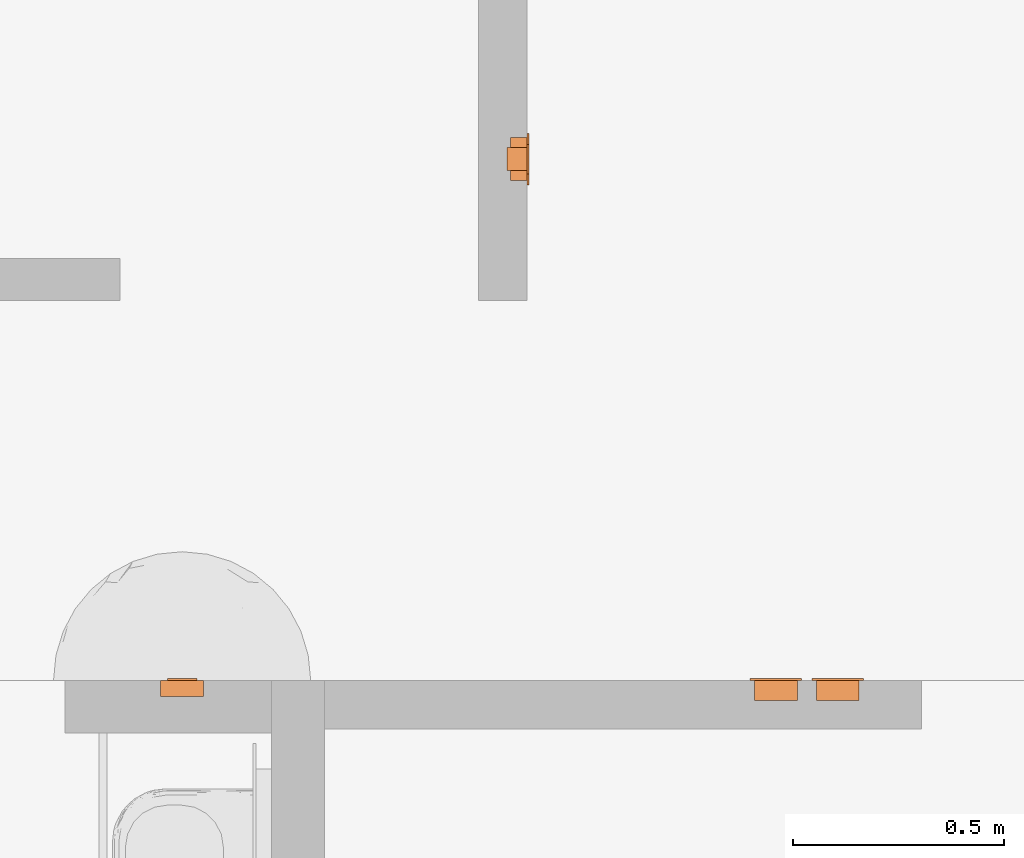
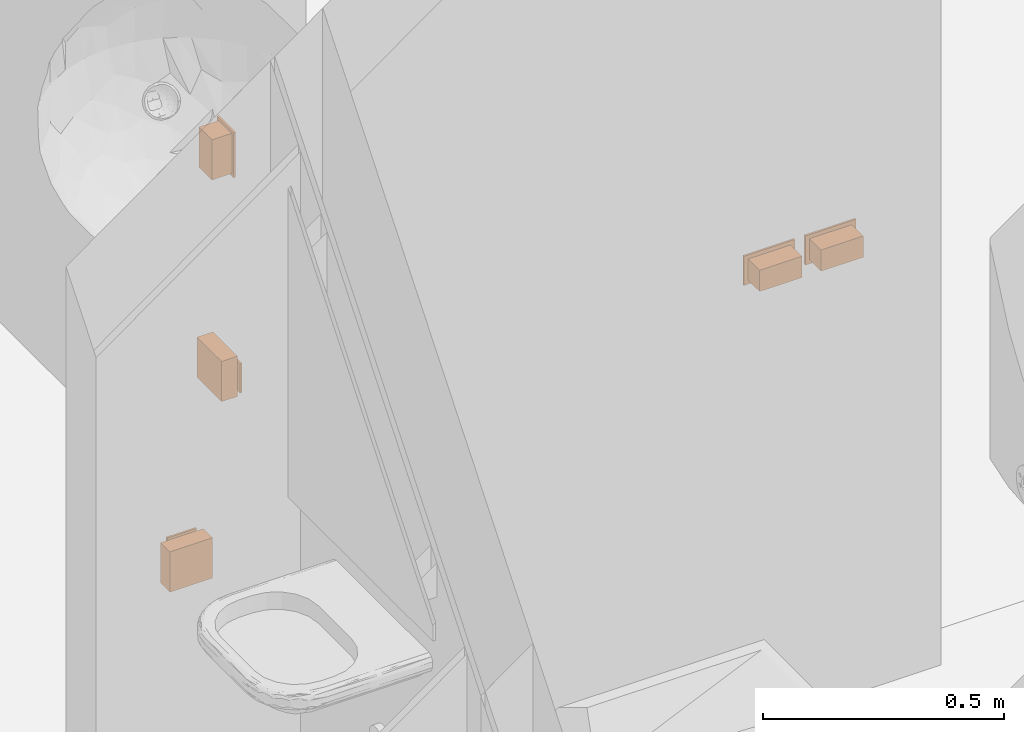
# One storey, part 51 of 51: 5 proxies.
"""IFC4 building model written with IfcOpenShell, lengths in metres."""

from ifc_helpers import new_model, entity, si_unit, converted_unit, derived_unit, direction, frame, origin, place, context, subcontext, project, spatial, indexed_curve, outline, extrude, source, transform, mapped, material, type_object, type_shapes, element, save


model = new_model("IFC4")

# Units and contexts
model_context = context("Model", 3, precision=1e-05, world=origin(), true_north=direction((6.123031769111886e-17, 1.0)))
body_context = subcontext(model_context, "Body", "Model", "MODEL_VIEW")
ifc_project = project(units=[si_unit("LENGTHUNIT", "METRE"), si_unit("AREAUNIT", "SQUARE_METRE"), si_unit("VOLUMEUNIT", "CUBIC_METRE"), converted_unit("PLANEANGLEUNIT", "DEGREE", entity("IfcRatioMeasure", 0.017453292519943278), si_unit("PLANEANGLEUNIT", "RADIAN"), dimensions=[0, 0, 0, 0, 0, 0, 0]), si_unit("MASSUNIT", "GRAM", prefix="KILO"), derived_unit("MASSDENSITYUNIT", [(si_unit("MASSUNIT", "GRAM", prefix="KILO"), 1), (si_unit("LENGTHUNIT", "METRE"), -3)]), derived_unit("IONCONCENTRATIONUNIT", [(si_unit("MASSUNIT", "GRAM", prefix="KILO"), 1), (si_unit("LENGTHUNIT", "METRE"), -3)]), derived_unit("MOMENTOFINERTIAUNIT", [(si_unit("LENGTHUNIT", "METRE"), 4)]), si_unit("TIMEUNIT", "SECOND"), si_unit("FREQUENCYUNIT", "HERTZ"), si_unit("THERMODYNAMICTEMPERATUREUNIT", "DEGREE_CELSIUS"), derived_unit("THERMALTRANSMITTANCEUNIT", [(si_unit("MASSUNIT", "GRAM", prefix="KILO"), 1), (si_unit("THERMODYNAMICTEMPERATUREUNIT", "KELVIN"), -1), (si_unit("TIMEUNIT", "SECOND"), -3)]), derived_unit("THERMALCONDUCTANCEUNIT", [(si_unit("MASSUNIT", "GRAM", prefix="KILO"), 1), (si_unit("THERMODYNAMICTEMPERATUREUNIT", "KELVIN"), -1), (si_unit("TIMEUNIT", "SECOND"), -3), (si_unit("LENGTHUNIT", "METRE"), 1)]), derived_unit("VOLUMETRICFLOWRATEUNIT", [(si_unit("LENGTHUNIT", "METRE"), 3), (si_unit("TIMEUNIT", "SECOND"), -1)]), derived_unit("MASSFLOWRATEUNIT", [(si_unit("MASSUNIT", "GRAM", prefix="KILO"), 1), (si_unit("TIMEUNIT", "SECOND"), -1)]), derived_unit("ROTATIONALFREQUENCYUNIT", [(si_unit("TIMEUNIT", "SECOND"), -1)]), si_unit("ELECTRICCURRENTUNIT", "AMPERE"), si_unit("ELECTRICVOLTAGEUNIT", "VOLT"), si_unit("POWERUNIT", "WATT"), si_unit("FORCEUNIT", "NEWTON", prefix="KILO"), si_unit("ILLUMINANCEUNIT", "LUX"), si_unit("LUMINOUSFLUXUNIT", "LUMEN"), si_unit("LUMINOUSINTENSITYUNIT", "CANDELA"), derived_unit("USERDEFINED", [(si_unit("MASSUNIT", "GRAM", prefix="KILO"), -1), (si_unit("LENGTHUNIT", "METRE"), -2), (si_unit("TIMEUNIT", "SECOND"), 3), (si_unit("LUMINOUSFLUXUNIT", "LUMEN"), 1)]), derived_unit("USERDEFINED", [(si_unit("MASSUNIT", "GRAM", prefix="KILO"), 1), (si_unit("TIMEUNIT", "SECOND"), -3), (si_unit("LENGTHUNIT", "METRE"), 3), (si_unit("ELECTRICCURRENTUNIT", "AMPERE"), -2)]), derived_unit("SOUNDPOWERUNIT", [(si_unit("MASSUNIT", "GRAM", prefix="KILO"), 1), (si_unit("TIMEUNIT", "SECOND"), -3), (si_unit("LENGTHUNIT", "METRE"), 2)]), derived_unit("SOUNDPRESSUREUNIT", [(si_unit("MASSUNIT", "GRAM", prefix="KILO"), 1), (si_unit("LENGTHUNIT", "METRE"), -1), (si_unit("TIMEUNIT", "SECOND"), -2)]), derived_unit("LINEARVELOCITYUNIT", [(si_unit("LENGTHUNIT", "METRE"), 1), (si_unit("TIMEUNIT", "SECOND"), -1)]), si_unit("PRESSUREUNIT", "PASCAL"), derived_unit("USERDEFINED", [(si_unit("MASSUNIT", "GRAM", prefix="KILO"), 1), (si_unit("LENGTHUNIT", "METRE"), -2), (si_unit("TIMEUNIT", "SECOND"), -2)]), derived_unit("LINEARFORCEUNIT", [(si_unit("MASSUNIT", "GRAM", prefix="KILO"), 1), (si_unit("TIMEUNIT", "SECOND"), -2)]), derived_unit("PLANARFORCEUNIT", [(si_unit("MASSUNIT", "GRAM", prefix="KILO"), 1), (si_unit("LENGTHUNIT", "METRE"), -1), (si_unit("TIMEUNIT", "SECOND"), -2)]), derived_unit("SPECIFICHEATCAPACITYUNIT", [(si_unit("THERMODYNAMICTEMPERATUREUNIT", "KELVIN"), -1), (si_unit("LENGTHUNIT", "METRE"), 2), (si_unit("TIMEUNIT", "SECOND"), -2)]), derived_unit("HEATINGVALUEUNIT", [(si_unit("LENGTHUNIT", "METRE"), 2), (si_unit("TIMEUNIT", "SECOND"), -2)]), derived_unit("VAPORPERMEABILITYUNIT", [(si_unit("LENGTHUNIT", "METRE"), -1), (si_unit("TIMEUNIT", "SECOND"), 1)]), derived_unit("DYNAMICVISCOSITYUNIT", [(si_unit("MASSUNIT", "GRAM", prefix="KILO"), 1), (si_unit("TIMEUNIT", "SECOND"), -1), (si_unit("LENGTHUNIT", "METRE"), -1)]), derived_unit("THERMALEXPANSIONCOEFFICIENTUNIT", [(si_unit("THERMODYNAMICTEMPERATUREUNIT", "KELVIN"), -1)]), derived_unit("MODULUSOFELASTICITYUNIT", [(si_unit("MASSUNIT", "GRAM", prefix="KILO"), 1), (si_unit("LENGTHUNIT", "METRE"), -1), (si_unit("TIMEUNIT", "SECOND"), -2)]), derived_unit("ISOTHERMALMOISTURECAPACITYUNIT", [(si_unit("LENGTHUNIT", "METRE"), 3), (si_unit("MASSUNIT", "GRAM", prefix="KILO"), -1)]), derived_unit("MOISTUREDIFFUSIVITYUNIT", [(si_unit("TIMEUNIT", "SECOND"), -1), (si_unit("LENGTHUNIT", "METRE"), 2)])], contexts=[model_context])

# Site, building, storey, space
site_placement = place(None, origin())
site = spatial("IfcSite", under=ifc_project, at=site_placement, Name="Default", CompositionType="ELEMENT")
building_placement = place(site_placement, origin())
building = spatial("IfcBuilding", under=site, at=building_placement, CompositionType="ELEMENT")
storey_placement = place(building_placement, frame((0.0, 0.0, 2.350000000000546)))
storey = spatial("IfcBuildingStorey", under=building, at=storey_placement, Name="Nivel 2", CompositionType="ELEMENT", Elevation=2.350000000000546)
space_1_placement = place(storey_placement, origin())
space_1 = spatial("IfcSpace", under=storey, at=space_1_placement, Name="408", CompositionType="ELEMENT", PredefinedType="SPACE")

# Proxies
ifc_material = material(Name="<Unnamed>")
building_element_proxy_type_1 = type_object("IfcBuildingElementProxyType", Name="Toma Doble Normal:Caja 2400", PredefinedType="NOTDEFINED", material=ifc_material)
shared_shape_1 = source(origin(), body_context, "Body", "SweptSolid", [
    extrude(outline(indexed_curve([(-0.05099999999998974, -0.051000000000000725), (0.05099999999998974, -0.051000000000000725), (0.05099999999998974, 0.051000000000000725), (-0.05099999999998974, 0.051000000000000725), (-0.05099999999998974, -0.051000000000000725)], self_intersect=False)), frame((0.0, 0.0, -0.03850000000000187), z_axis=(0.0, 0.0, 1.0), x_axis=(-1.0, 0.0, 0.0)), (0.0, 0.0, 1.0), 0.038500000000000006),
    extrude(outline(indexed_curve([(-0.06090000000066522, -0.03694999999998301), (0.06090000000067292, -0.03694999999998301), (0.06090000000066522, 0.03694999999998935), (-0.06090000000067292, 0.036949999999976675), (-0.06090000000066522, -0.03694999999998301)], self_intersect=False)), frame((0.0, 0.0, 0.0), z_axis=(0.0, 0.0, 1.0), x_axis=(-1.0, 0.0, 0.0)), (0.0, 0.0, 1.0), 0.004762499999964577),
])
type_shapes(building_element_proxy_type_1, [shared_shape_1])
proxy_1_placement = place(space_1_placement, frame((4.567499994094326, -2.4743878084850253, 0.3000000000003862), z_axis=(1.0, 0.0, 0.0), x_axis=(0.0, -1.0, 0.0)))
element("IfcBuildingElementProxy", 1, at=proxy_1_placement, inside=space_1, type_object=building_element_proxy_type_1, material=ifc_material, Name="Toma Doble Normal:Caja 2400", ObjectType="Toma Doble Normal:Caja 2400", PredefinedType="NOTDEFINED", context=body_context, shape_type="MappedRepresentation", body=[
    mapped(shared_shape_1, transform((0.0, 0.0, 0.0), scale=1.0)),
])
building_element_proxy_type_2 = type_object("IfcBuildingElementProxyType", Name="Toma Doble Normal (Esclava):Caja 5800", PredefinedType="NOTDEFINED", material=ifc_material)
shared_shape_2 = source(origin(), body_context, "Body", "SweptSolid", [
    extrude(outline(indexed_curve([(-0.05089999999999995, -0.026950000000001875), (0.05089999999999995, -0.026950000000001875), (0.05089999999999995, 0.026950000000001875), (-0.05089999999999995, 0.026950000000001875), (-0.05089999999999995, -0.026950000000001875)], self_intersect=False)), frame((0.0, 0.0, -0.04760000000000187), z_axis=(0.0, 0.0, 1.0), x_axis=(-1.0, 0.0, 0.0)), (0.0, 0.0, 1.0), 0.047599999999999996),
    extrude(outline(indexed_curve([(-0.06090000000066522, -0.03694999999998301), (0.06090000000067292, -0.03694999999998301), (0.06090000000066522, 0.03694999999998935), (-0.06090000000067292, 0.036949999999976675), (-0.06090000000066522, -0.03694999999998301)], self_intersect=False)), frame((0.0, 0.0, 0.0), z_axis=(0.0, 0.0, 1.0), x_axis=(-1.0, 0.0, 0.0)), (0.0, 0.0, 1.0), 0.004762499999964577),
])
type_shapes(building_element_proxy_type_2, [shared_shape_2])
proxy_2_placement = place(space_1_placement, frame((5.304326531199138, -3.709999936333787, 1.1000000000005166), z_axis=(0.0, 1.0, 0.0), x_axis=(-1.0, 0.0, 0.0)))
element("IfcBuildingElementProxy", 2, at=proxy_2_placement, inside=space_1, type_object=building_element_proxy_type_2, material=ifc_material, Name="Toma Doble Normal (Esclava):Caja 5800", ObjectType="Toma Doble Normal (Esclava):Caja 5800", PredefinedType="NOTDEFINED", context=body_context, shape_type="MappedRepresentation", body=[
    mapped(shared_shape_2, transform((0.0, 0.0, 0.0), scale=1.0)),
])
building_element_proxy_type_3 = type_object("IfcBuildingElementProxyType", Name="Toma Citófono:Caja 5800", PredefinedType="NOTDEFINED", material=ifc_material)
shared_shape_3 = source(origin(), body_context, "Body", "SweptSolid", [
    extrude(outline(indexed_curve([(-0.026949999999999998, -0.0509), (0.02695, -0.050899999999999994), (0.026949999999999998, 0.050899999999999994), (-0.026949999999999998, 0.0509), (-0.026949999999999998, -0.0509)], self_intersect=False)), frame((0.0, 0.0, -0.04760000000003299), z_axis=(0.0, 0.0, 1.0), x_axis=(0.0, 1.0, 0.0)), (0.0, 0.0, 1.0), 0.047600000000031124),
    extrude(outline(indexed_curve([(-0.03694999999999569, -0.06089999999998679), (0.036949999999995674, -0.06089999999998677), (0.03694999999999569, 0.060899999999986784), (-0.03694999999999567, 0.060899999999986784), (-0.03694999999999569, -0.06089999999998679)], self_intersect=False)), frame((0.0, 0.0, 0.0), z_axis=(0.0, 0.0, 1.0), x_axis=(0.0, 1.0, 0.0)), (0.0, 0.0, 1.0), 0.004762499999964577),
])
type_shapes(building_element_proxy_type_3, [shared_shape_3])
proxy_3_placement = place(space_1_placement, frame((5.157476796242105, -3.7099999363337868, 1.1000000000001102), z_axis=(0.0, 1.0, 0.0), x_axis=(-1.0, 0.0, 0.0)))
element("IfcBuildingElementProxy", 3, at=proxy_3_placement, inside=space_1, type_object=building_element_proxy_type_3, material=ifc_material, Name="Toma Citófono:Caja 5800", ObjectType="Toma Citófono:Caja 5800", PredefinedType="NOTDEFINED", context=body_context, shape_type="MappedRepresentation", body=[
    mapped(shared_shape_3, transform((0.0, 0.0, 0.0), scale=1.0)),
])

# Space
space_2_placement = place(storey_placement, origin())
space_2 = spatial("IfcSpace", under=storey, at=space_2_placement, Name="409", CompositionType="ELEMENT", PredefinedType="SPACE")

# Proxies
building_element_proxy_type_4 = type_object("IfcBuildingElementProxyType", Name="Interruptor Sencillo:Caja 2400", PredefinedType="NOTDEFINED", material=ifc_material)
shared_shape_4 = source(origin(), body_context, "Body", "SweptSolid", [
    extrude(outline(indexed_curve([(-0.051000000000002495, -0.05100000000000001), (0.051000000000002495, -0.05100000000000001), (0.051000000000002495, 0.05100000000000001), (-0.051000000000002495, 0.05100000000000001), (-0.051000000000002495, -0.05100000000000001)], self_intersect=False)), frame((0.0, 0.0, -0.03850000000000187), z_axis=(0.0, 0.0, 1.0), x_axis=(0.0, 1.0, 0.0)), (0.0, 0.0, 1.0), 0.038500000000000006),
    extrude(outline(indexed_curve([(-0.05715000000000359, -0.03492499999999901), (0.057150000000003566, -0.03492499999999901), (0.05715000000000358, 0.03492499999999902), (-0.057150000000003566, 0.03492499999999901), (-0.05715000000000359, -0.03492499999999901)], self_intersect=False)), frame((0.0, 0.0, 0.0), z_axis=(0.0, 0.0, 1.0), x_axis=(0.0, 1.0, 0.0)), (0.0, 0.0, 1.0), 0.004762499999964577),
])
type_shapes(building_element_proxy_type_4, [shared_shape_4])
proxy_4_placement = place(space_2_placement, frame((3.7499999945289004, -3.71000006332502, 0.8499999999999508), z_axis=(0.0, 1.0, 0.0), x_axis=(-1.0, 0.0, 0.0)))
element("IfcBuildingElementProxy", 4, at=proxy_4_placement, inside=space_2, type_object=building_element_proxy_type_4, material=ifc_material, Name="Interruptor Sencillo:Caja 2400", ObjectType="Interruptor Sencillo:Caja 2400", PredefinedType="NOTDEFINED", context=body_context, shape_type="MappedRepresentation", body=[
    mapped(shared_shape_4, transform((0.0, 0.0, 0.0), scale=1.0)),
])
building_element_proxy_type_5 = type_object("IfcBuildingElementProxyType", Name="Interruptor Conmutable:Caja 5800", PredefinedType="NOTDEFINED", material=ifc_material)
shared_shape_5 = source(origin(), body_context, "Body", "SweptSolid", [
    extrude(outline(indexed_curve([(-0.0509, -0.026949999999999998), (0.0509, -0.026949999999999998), (0.0509, 0.026949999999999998), (-0.0509, 0.026949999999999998), (-0.0509, -0.026949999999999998)], self_intersect=False)), frame((0.0, 0.0, -0.04760000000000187), z_axis=(0.0, 0.0, 1.0), x_axis=(0.0, 1.0, 0.0)), (0.0, 0.0, 1.0), 0.047599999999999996),
    extrude(outline(indexed_curve([(-0.05715000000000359, -0.03492499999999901), (0.057150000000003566, -0.03492499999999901), (0.05715000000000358, 0.03492499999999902), (-0.057150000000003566, 0.03492499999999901), (-0.05715000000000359, -0.03492499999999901)], self_intersect=False)), frame((0.0, 0.0, 0.0), z_axis=(0.0, 0.0, 1.0), x_axis=(0.0, 1.0, 0.0)), (0.0, 0.0, 1.0), 0.004762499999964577),
])
type_shapes(building_element_proxy_type_5, [shared_shape_5])
proxy_5_placement = place(space_1_placement, frame((4.567499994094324, -2.4743878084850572, 0.8500000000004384), z_axis=(1.0, 0.0, 0.0), x_axis=(0.0, 1.0, 0.0)))
element("IfcBuildingElementProxy", 5, at=proxy_5_placement, inside=space_1, type_object=building_element_proxy_type_5, material=ifc_material, Name="Interruptor Conmutable:Caja 5800", ObjectType="Interruptor Conmutable:Caja 5800", PredefinedType="NOTDEFINED", context=body_context, shape_type="MappedRepresentation", body=[
    mapped(shared_shape_5, transform((0.0, 0.0, 0.0), scale=1.0)),
])

save(model, "model.ifc")
